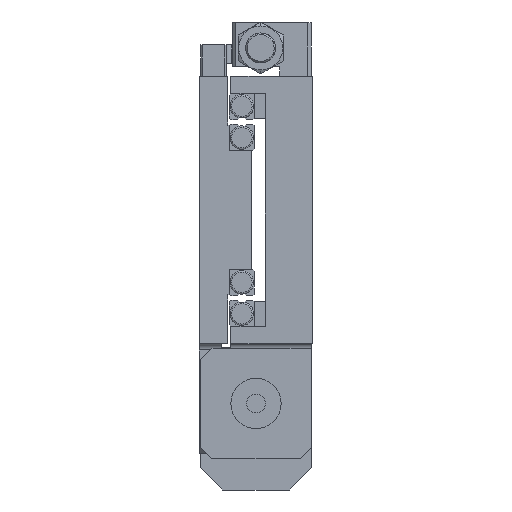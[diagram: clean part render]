
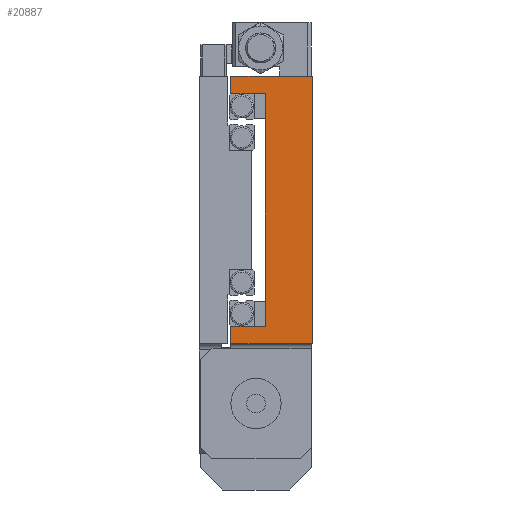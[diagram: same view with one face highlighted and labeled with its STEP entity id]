
A CAD part, left-side view. The second image highlights one B-rep face of the part: STEP entity #20887.
In plain terms, the highlighted planar face has unit normal (-1, 0, 0).
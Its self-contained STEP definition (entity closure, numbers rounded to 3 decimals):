
#1065 = FACE_OUTER_BOUND ( 'NONE', #1439, .T. ) ;
#1168 = DIRECTION ( 'NONE',  ( 0., 1., 0. ) ) ;
#1221 = VECTOR ( 'NONE', #16449, 1000. ) ;
#1439 = EDGE_LOOP ( 'NONE', ( #24616, #1665, #14194, #17301, #6282, #17197, #25232, #19587 ) ) ;
#1665 = ORIENTED_EDGE ( 'NONE', *, *, #14867, .T. ) ;
#2005 = VECTOR ( 'NONE', #15891, 1000. ) ;
#2969 = VERTEX_POINT ( 'NONE', #3766 ) ;
#2988 = CARTESIAN_POINT ( 'NONE',  ( -177.5, 15., 37. ) ) ;
#3236 = DIRECTION ( 'NONE',  ( 0., 0., 1. ) ) ;
#3307 = PLANE ( 'NONE',  #4388 ) ;
#3421 = VERTEX_POINT ( 'NONE', #16668 ) ;
#3766 = CARTESIAN_POINT ( 'NONE',  ( -177.5, 26., 42.5 ) ) ;
#4150 = VERTEX_POINT ( 'NONE', #24778 ) ;
#4388 = AXIS2_PLACEMENT_3D ( 'NONE', #4981, #22191, #13456 ) ;
#4964 = VERTEX_POINT ( 'NONE', #27029 ) ;
#4981 = CARTESIAN_POINT ( 'NONE',  ( -177.5, 26., 42.5 ) ) ;
#6282 = ORIENTED_EDGE ( 'NONE', *, *, #25597, .T. ) ;
#7109 = DIRECTION ( 'NONE',  ( 0., 0., 1. ) ) ;
#7168 = LINE ( 'NONE', #13419, #15883 ) ;
#7655 = EDGE_CURVE ( 'NONE', #4150, #2969, #19106, .T. ) ;
#7834 = DIRECTION ( 'NONE',  ( 0., 1., 0. ) ) ;
#7968 = CARTESIAN_POINT ( 'NONE',  ( -177.5, 18.5, 37. ) ) ;
#8567 = CARTESIAN_POINT ( 'NONE',  ( -177.5, 26., 42.5 ) ) ;
#10693 = EDGE_CURVE ( 'NONE', #2969, #17462, #22245, .T. ) ;
#11344 = CARTESIAN_POINT ( 'NONE',  ( -177.5, 26., -42.5 ) ) ;
#11410 = EDGE_CURVE ( 'NONE', #20114, #4150, #11714, .T. ) ;
#11714 = LINE ( 'NONE', #7968, #1221 ) ;
#11867 = LINE ( 'NONE', #20324, #16333 ) ;
#13377 = CARTESIAN_POINT ( 'NONE',  ( -177.5, 26., 42.5 ) ) ;
#13419 = CARTESIAN_POINT ( 'NONE',  ( -177.5, 0., -42.5 ) ) ;
#13456 = DIRECTION ( 'NONE',  ( 0., 0., -1. ) ) ;
#13913 = VECTOR ( 'NONE', #17034, 1000. ) ;
#14194 = ORIENTED_EDGE ( 'NONE', *, *, #15973, .F. ) ;
#14211 = EDGE_CURVE ( 'NONE', #3421, #20114, #15591, .T. ) ;
#14418 = CARTESIAN_POINT ( 'NONE',  ( -177.5, 26., -37. ) ) ;
#14867 = EDGE_CURVE ( 'NONE', #3421, #19953, #20172, .T. ) ;
#15591 = LINE ( 'NONE', #17644, #17523 ) ;
#15883 = VECTOR ( 'NONE', #1168, 1000. ) ;
#15891 = DIRECTION ( 'NONE',  ( 0., -1., 0. ) ) ;
#15914 = LINE ( 'NONE', #20609, #23940 ) ;
#15973 = EDGE_CURVE ( 'NONE', #17883, #19953, #11867, .T. ) ;
#16333 = VECTOR ( 'NONE', #3236, 1000. ) ;
#16449 = DIRECTION ( 'NONE',  ( 0., 1., 0. ) ) ;
#16668 = CARTESIAN_POINT ( 'NONE',  ( -177.5, 15., -37. ) ) ;
#17034 = DIRECTION ( 'NONE',  ( 0., 0., 1. ) ) ;
#17197 = ORIENTED_EDGE ( 'NONE', *, *, #10693, .F. ) ;
#17301 = ORIENTED_EDGE ( 'NONE', *, *, #20100, .F. ) ;
#17462 = VERTEX_POINT ( 'NONE', #24895 ) ;
#17523 = VECTOR ( 'NONE', #7109, 1000. ) ;
#17644 = CARTESIAN_POINT ( 'NONE',  ( -177.5, 15., -29. ) ) ;
#17883 = VERTEX_POINT ( 'NONE', #11344 ) ;
#19106 = LINE ( 'NONE', #8567, #13913 ) ;
#19587 = ORIENTED_EDGE ( 'NONE', *, *, #11410, .F. ) ;
#19953 = VERTEX_POINT ( 'NONE', #14418 ) ;
#20100 = EDGE_CURVE ( 'NONE', #4964, #17883, #7168, .T. ) ;
#20114 = VERTEX_POINT ( 'NONE', #2988 ) ;
#20172 = LINE ( 'NONE', #24647, #21490 ) ;
#20324 = CARTESIAN_POINT ( 'NONE',  ( -177.5, 26., 42.5 ) ) ;
#20609 = CARTESIAN_POINT ( 'NONE',  ( -177.5, 0., 42.5 ) ) ;
#20887 = ADVANCED_FACE ( 'NONE', ( #1065 ), #3307, .F. ) ;
#21490 = VECTOR ( 'NONE', #7834, 1000. ) ;
#22191 = DIRECTION ( 'NONE',  ( 1., 0., 0. ) ) ;
#22245 = LINE ( 'NONE', #13377, #2005 ) ;
#23940 = VECTOR ( 'NONE', #24377, 1000. ) ;
#24377 = DIRECTION ( 'NONE',  ( 0., 0., 1. ) ) ;
#24616 = ORIENTED_EDGE ( 'NONE', *, *, #14211, .F. ) ;
#24647 = CARTESIAN_POINT ( 'NONE',  ( -177.5, 18.5, -37. ) ) ;
#24778 = CARTESIAN_POINT ( 'NONE',  ( -177.5, 26., 37. ) ) ;
#24895 = CARTESIAN_POINT ( 'NONE',  ( -177.5, 0., 42.5 ) ) ;
#25232 = ORIENTED_EDGE ( 'NONE', *, *, #7655, .F. ) ;
#25597 = EDGE_CURVE ( 'NONE', #4964, #17462, #15914, .T. ) ;
#27029 = CARTESIAN_POINT ( 'NONE',  ( -177.5, 0., -42.5 ) ) ;
